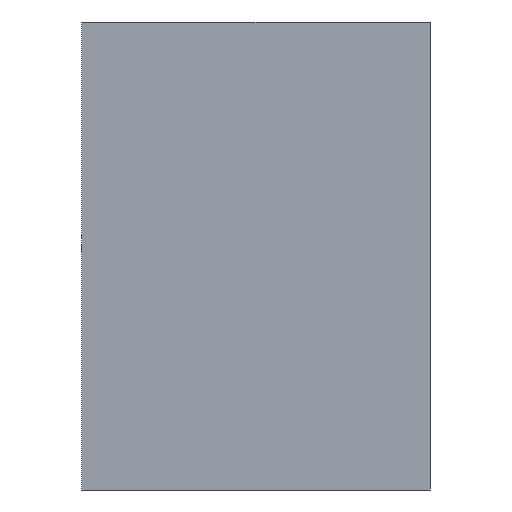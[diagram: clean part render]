
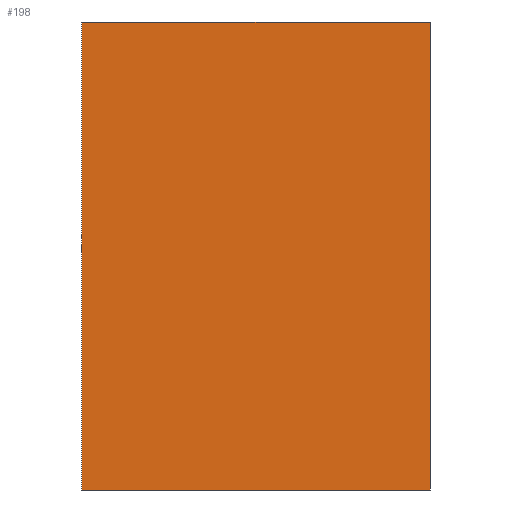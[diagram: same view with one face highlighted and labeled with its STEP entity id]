
A CAD part, left-side view. The second image highlights one B-rep face of the part: STEP entity #198.
In plain terms, the highlighted planar face has unit normal (-1, 0, 0).
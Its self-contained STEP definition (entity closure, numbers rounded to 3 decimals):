
#18=FACE_OUTER_BOUND('',#29,.T.);
#29=EDGE_LOOP('',(#144,#145,#146,#147));
#47=LINE('',#306,#73);
#48=LINE('',#308,#74);
#49=LINE('',#310,#75);
#50=LINE('',#311,#76);
#73=VECTOR('',#251,10.);
#74=VECTOR('',#252,10.);
#75=VECTOR('',#253,10.);
#76=VECTOR('',#254,10.);
#97=VERTEX_POINT('',#304);
#98=VERTEX_POINT('',#305);
#99=VERTEX_POINT('',#307);
#100=VERTEX_POINT('',#309);
#116=EDGE_CURVE('',#97,#98,#47,.T.);
#117=EDGE_CURVE('',#98,#99,#48,.T.);
#118=EDGE_CURVE('',#100,#99,#49,.T.);
#119=EDGE_CURVE('',#97,#100,#50,.T.);
#144=ORIENTED_EDGE('',*,*,#116,.T.);
#145=ORIENTED_EDGE('',*,*,#117,.T.);
#146=ORIENTED_EDGE('',*,*,#118,.F.);
#147=ORIENTED_EDGE('',*,*,#119,.F.);
#187=PLANE('',#223);
#198=ADVANCED_FACE('',(#18),#187,.T.);
#223=AXIS2_PLACEMENT_3D('',#303,#249,#250);
#249=DIRECTION('center_axis',(-1.,0.,0.));
#250=DIRECTION('ref_axis',(0.,-1.,0.));
#251=DIRECTION('',(0.,-1.,0.));
#252=DIRECTION('',(0.,0.,1.));
#253=DIRECTION('',(0.,-1.,0.));
#254=DIRECTION('',(0.,0.,1.));
#303=CARTESIAN_POINT('Origin',(-4.,164.,0.));
#304=CARTESIAN_POINT('',(-4.,164.,0.));
#305=CARTESIAN_POINT('',(-4.,0.,0.));
#306=CARTESIAN_POINT('',(-4.,164.,0.));
#307=CARTESIAN_POINT('',(-4.,0.,220.));
#308=CARTESIAN_POINT('',(-4.,0.,0.));
#309=CARTESIAN_POINT('',(-4.,164.,220.));
#310=CARTESIAN_POINT('',(-4.,164.,220.));
#311=CARTESIAN_POINT('',(-4.,164.,0.));
